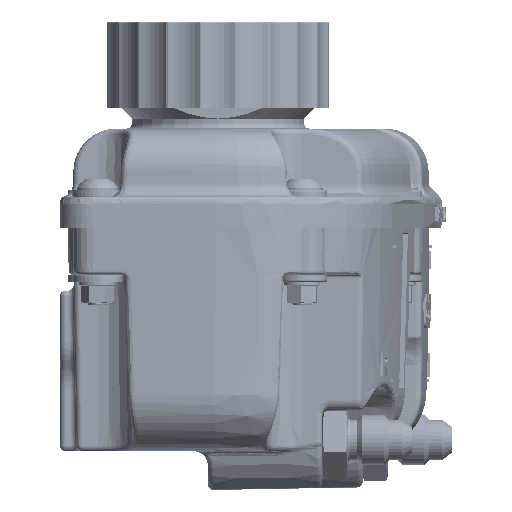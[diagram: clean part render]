
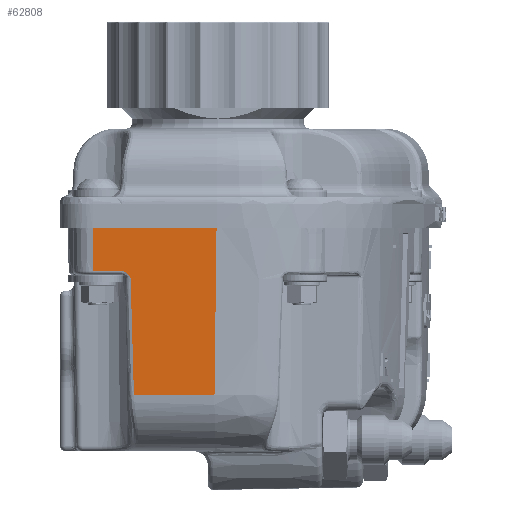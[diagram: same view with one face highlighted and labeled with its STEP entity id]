
A CAD part, left-side view. The second image highlights one B-rep face of the part: STEP entity #62808.
In plain terms, the highlighted planar face has unit normal (-1, 0.009, -0.018).
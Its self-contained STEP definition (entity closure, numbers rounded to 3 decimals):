
#876=LINE('',#85972,#2275);
#961=LINE('',#86571,#2360);
#964=LINE('',#86666,#2363);
#965=LINE('',#86668,#2364);
#2275=VECTOR('',#72073,1000.);
#2360=VECTOR('',#72376,1000.);
#2363=VECTOR('',#72389,1000.);
#2364=VECTOR('',#72392,1000.);
#3918=B_SPLINE_CURVE_WITH_KNOTS('',3,(#86642,#86643,#86644,#86645),
 .UNSPECIFIED.,.F.,.F.,(4,4),(0.012,0.051),
 .UNSPECIFIED.);
#3921=B_SPLINE_CURVE_WITH_KNOTS('',3,(#86670,#86671,#86672,#86673,#86674),
 .UNSPECIFIED.,.F.,.F.,(4,1,4),(0.,0.001,0.003),
 .UNSPECIFIED.);
#3922=B_SPLINE_CURVE_WITH_KNOTS('',3,(#86676,#86677,#86678,#86679),
 .UNSPECIFIED.,.F.,.F.,(4,4),(0.001,0.027),
 .UNSPECIFIED.);
#8420=ORIENTED_EDGE('',*,*,#20094,.T.);
#8421=ORIENTED_EDGE('',*,*,#20095,.T.);
#8422=ORIENTED_EDGE('',*,*,#20096,.T.);
#8423=ORIENTED_EDGE('',*,*,#20078,.T.);
#8424=ORIENTED_EDGE('',*,*,#20086,.T.);
#8425=ORIENTED_EDGE('',*,*,#19875,.F.);
#8426=ORIENTED_EDGE('',*,*,#20093,.T.);
#19875=EDGE_CURVE('',#25744,#25745,#876,.F.);
#20078=EDGE_CURVE('',#25926,#25927,#961,.T.);
#20086=EDGE_CURVE('',#25927,#25745,#3918,.T.);
#20093=EDGE_CURVE('',#25744,#25936,#964,.F.);
#20094=EDGE_CURVE('',#25936,#25937,#965,.T.);
#20095=EDGE_CURVE('',#25937,#25938,#3921,.T.);
#20096=EDGE_CURVE('',#25938,#25926,#3922,.T.);
#25744=VERTEX_POINT('',#85971);
#25745=VERTEX_POINT('',#85973);
#25926=VERTEX_POINT('',#86568);
#25927=VERTEX_POINT('',#86570);
#25936=VERTEX_POINT('',#86665);
#25937=VERTEX_POINT('',#86669);
#25938=VERTEX_POINT('',#86675);
#31867=EDGE_LOOP('',(#8420,#8421,#8422,#8423,#8424,#8425,#8426));
#36197=FACE_BOUND('',#31867,.T.);
#40332=PLANE('',#66263);
#62808=ADVANCED_FACE('',(#36197),#40332,.T.);
#66263=AXIS2_PLACEMENT_3D('',#86667,#72390,#72391);
#72073=DIRECTION('',(0.009,1.,0.));
#72376=DIRECTION('',(-0.009,-1.,0.));
#72389=DIRECTION('',(-0.017,0.,1.));
#72390=DIRECTION('',(-1.,0.009,-0.017));
#72391=DIRECTION('',(-0.017,0.,1.));
#72392=DIRECTION('',(-0.009,-1.,0.));
#85971=CARTESIAN_POINT('',(-88.939,24.114,50.8));
#85972=CARTESIAN_POINT('',(-89.239,-10.188,50.8));
#85973=CARTESIAN_POINT('',(-89.179,-3.303,50.8));
#86568=CARTESIAN_POINT('',(-88.35,14.993,12.478));
#86570=CARTESIAN_POINT('',(-88.506,-2.831,12.478));
#86571=CARTESIAN_POINT('',(-88.57,-10.194,12.478));
#86642=CARTESIAN_POINT('',(-88.506,-2.831,12.478));
#86643=CARTESIAN_POINT('',(-88.73,-2.989,25.252));
#86644=CARTESIAN_POINT('',(-88.954,-3.146,38.026));
#86645=CARTESIAN_POINT('',(-89.179,-3.303,50.8));
#86665=CARTESIAN_POINT('',(-88.749,24.113,39.865));
#86666=CARTESIAN_POINT('',(-88.939,24.114,50.8));
#86667=CARTESIAN_POINT('',(-89.239,-10.188,50.8));
#86668=CARTESIAN_POINT('',(-89.048,-10.189,39.865));
#86669=CARTESIAN_POINT('',(-88.805,17.689,39.865));
#86670=CARTESIAN_POINT('',(-88.805,17.689,39.865));
#86671=CARTESIAN_POINT('',(-88.808,17.251,39.865));
#86672=CARTESIAN_POINT('',(-88.809,16.41,39.499));
#86673=CARTESIAN_POINT('',(-88.8,15.944,38.74));
#86674=CARTESIAN_POINT('',(-88.796,15.728,38.367));
#86675=CARTESIAN_POINT('',(-88.796,15.728,38.367));
#86676=CARTESIAN_POINT('',(-88.796,15.728,38.367));
#86677=CARTESIAN_POINT('',(-88.647,15.471,29.738));
#86678=CARTESIAN_POINT('',(-88.499,15.227,21.108));
#86679=CARTESIAN_POINT('',(-88.35,14.993,12.478));
